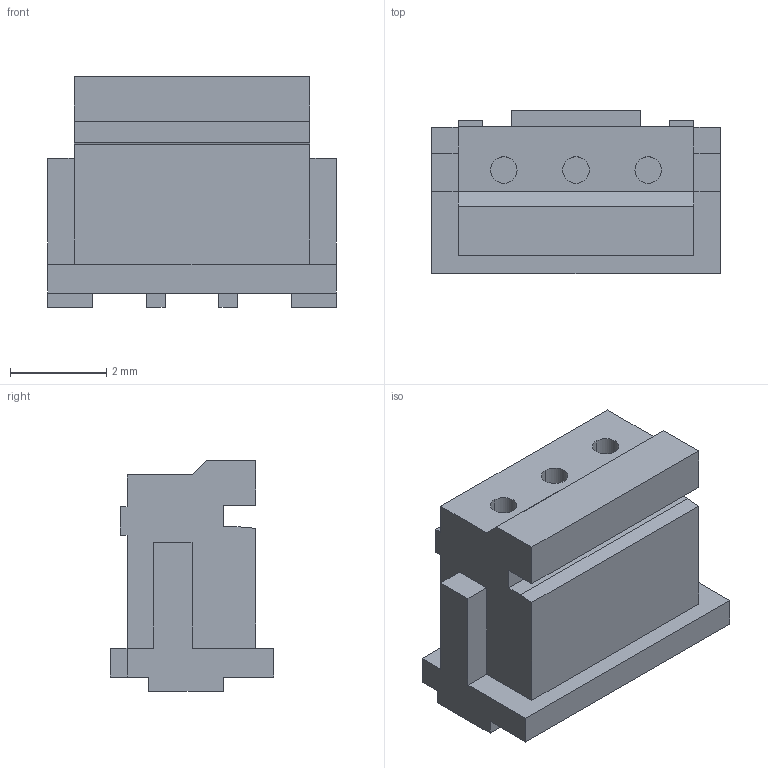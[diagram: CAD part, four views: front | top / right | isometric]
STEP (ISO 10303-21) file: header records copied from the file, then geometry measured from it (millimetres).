
FILE_DESCRIPTION (( 'STEP AP214' ), '1' );
FILE_NAME ('ZHR-3.STEP', '2012-02-07T01:45:33', ( ' ' ), ( ' ' ), 'SwSTEP 2.0', 'SolidWorks 2005235', '' );
FILE_SCHEMA (( 'AUTOMOTIVE_DESIGN' ));
Length unit declared in the file: millimetre
Products named in the file (1): ZHR-3
Bounding box: 6 x 3.4 x 4.8 mm (x, y, z)
Volume: 60.4 mm3; surface area: 130.7 mm2
Topology: 1 solids, 1 shells, 74 faces, 195 edges, 126 vertices
Faces by surface type: plane 68, cylinder 6
Entity records: 3072 total; most frequent: CARTESIAN_POINT 396, ORIENTED_EDGE 390, DIRECTION 357, EDGE_CURVE 195, VECTOR 183, LINE 183, VERTEX_POINT 126, AXIS2_PLACEMENT_3D 87
